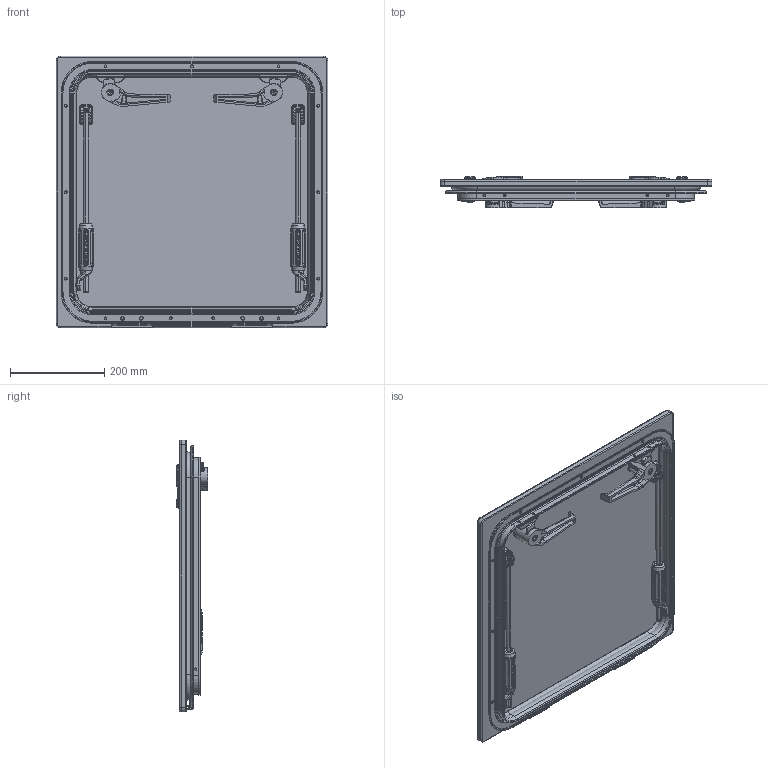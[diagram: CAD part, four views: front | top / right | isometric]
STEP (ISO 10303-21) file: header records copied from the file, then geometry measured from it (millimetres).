
FILE_DESCRIPTION((''),'2;1');
FILE_NAME('39960X1Y_ASM','2009-11-20T',('AWickes'),(''),'PRO/ENGINEER BY PARAMETRIC TECHNOLOGY CORPORATION, 2007030','PRO/ENGINEER BY PARAMETRIC TECHNOLOGY CORPORATION, 2007030','');
FILE_SCHEMA(('CONFIG_CONTROL_DESIGN'));
Length unit declared in the file: millimetre
Products named in the file (24): 35002016; 35001733; 35001706; 35000998Z; 38002016Y_ASM; 35002015X; 35001707Z; 35001709Z; 35001959Y; 39960012_SEAL; 15801371Z; 35000999Z; 35001015Z; LH_LARGE_HANDLE_ASM; 15801372Z; 35001016Z; RH_LARGE_HANDLE_ASM; 38002015X_ASM; 35001703; 35001704; 35001007; 38001770Z_AF1_ASM; 38001770Z_AF0_ASM; 39960X1Y_ASM
Assembly tree (34 placements, depth 4):
  39960X1Y_ASM
    38002016Y_ASM
      35002016
      35001733  x2
      35001706  x2
      35000998Z  x2
    38002015X_ASM
      35002015X
      35001707Z  x2
      35001709Z  x2
      35001959Y  x2
      39960012_SEAL
      LH_LARGE_HANDLE_ASM
        15801371Z
        35000999Z
        35001015Z
      RH_LARGE_HANDLE_ASM
        15801372Z
        35000999Z
        35001016Z
      35000999Z
    38001770Z_AF1_ASM
      35001703
      35001704
      35001007
    38001770Z_AF0_ASM
      35001703
      35001704
      35001007
Bounding box: 577 x 67.24 x 577 mm (x, y, z)
Volume: 5957744.5 mm3; surface area: 1379596.5 mm2
Topology: 32 solids, 33 shells, 3442 faces, 8575 edges, 5282 vertices
Faces by surface type: cylinder 1189, plane 1081, bspline 557, torus 296, cone 216, sphere 89, extrusion 14
Entity records: 90073 total; most frequent: CARTESIAN_POINT 39684, ORIENTED_EDGE 10830, DIRECTION 9853, EDGE_CURVE 5415, AXIS2_PLACEMENT_3D 3749, VERTEX_POINT 3334, EDGE_LOOP 2381, VECTOR 2355
